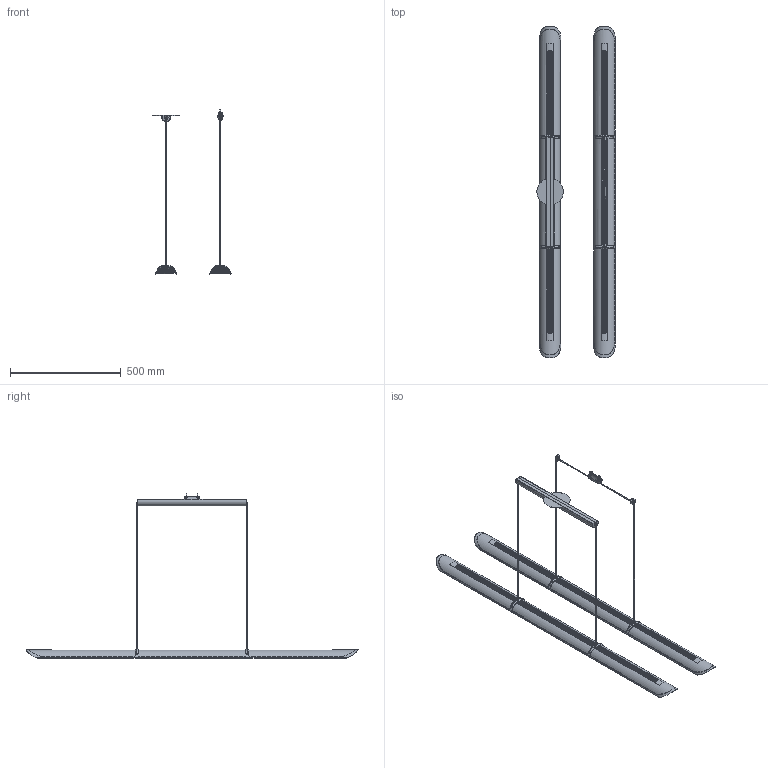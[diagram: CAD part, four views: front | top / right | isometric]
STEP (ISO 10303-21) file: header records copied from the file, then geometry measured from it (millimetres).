
FILE_DESCRIPTION(/* description */ (''),/* implementation_level */ '2;1');
FILE_NAME(/* name */ 'lani15',/* time_stamp */ '2025-09-01T10:57:17-03:00',/* author */ (''),/* organization */ (''),/* preprocessor_version */ 'ST-DEVELOPER v19.2',/* originating_system */ 'Rhino 8.22',/* authorisation */ '');
FILE_SCHEMA (('CONFIG_CONTROL_DESIGN'));
Length unit declared in the file: millimetre
Products named in the file (1): Document
Bounding box: 353.79 x 1500 x 741 mm (x, y, z)
Volume: 3794633.5 mm3; surface area: 2192523.9 mm2
Topology: 17 solids, 23 shells, 1514 faces, 4336 edges, 2858 vertices
Faces by surface type: bspline 1244, plane 172, cylinder 98
Entity records: 71983 total; most frequent: CARTESIAN_POINT 46940, ORIENTED_EDGE 8624, EDGE_CURVE 4324, VERTEX_POINT 2850, B_SPLINE_CURVE_WITH_KNOTS 2641, EDGE_LOOP 1526, ADVANCED_FACE 1514, FACE_OUTER_BOUND 1514
